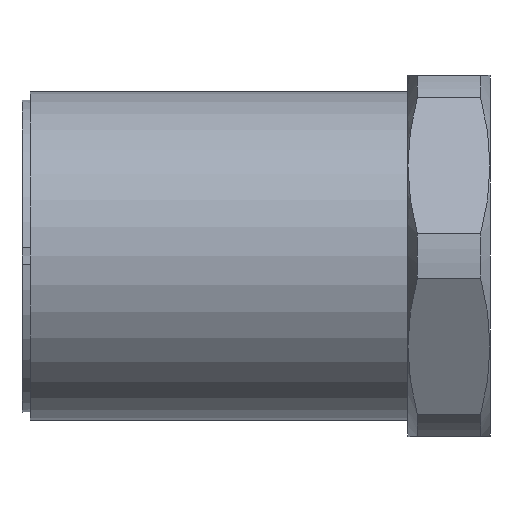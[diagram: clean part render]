
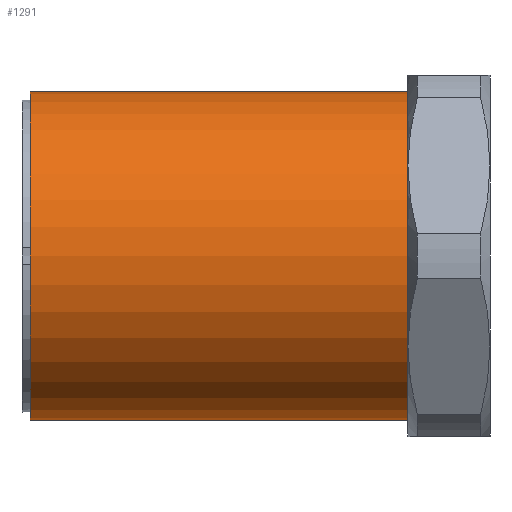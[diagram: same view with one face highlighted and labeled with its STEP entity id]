
A CAD part, front view. The second image highlights one B-rep face of the part: STEP entity #1291.
In plain terms, the highlighted cylindrical face has radius 10 mm (diameter 20 mm), a partial arc.
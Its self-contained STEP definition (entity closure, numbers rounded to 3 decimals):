
#3 = EDGE_CURVE ( 'NONE', #93, #639, #1360, .T. ) ;
#18 = AXIS2_PLACEMENT_3D ( 'NONE', #276, #166, #167 ) ;
#42 = CARTESIAN_POINT ( 'NONE',  ( 0., 0., 10. ) ) ;
#93 = VERTEX_POINT ( 'NONE', #109 ) ;
#109 = CARTESIAN_POINT ( 'NONE',  ( 23., 0., -10. ) ) ;
#166 = DIRECTION ( 'NONE',  ( -1., 0., 0. ) ) ;
#167 = DIRECTION ( 'NONE',  ( 0., 0., 1. ) ) ;
#236 = VERTEX_POINT ( 'NONE', #401 ) ;
#276 = CARTESIAN_POINT ( 'NONE',  ( 23., 0., 0. ) ) ;
#301 = CARTESIAN_POINT ( 'NONE',  ( 0., 0., 10. ) ) ;
#310 = DIRECTION ( 'NONE',  ( -1., 0., 0. ) ) ;
#401 = CARTESIAN_POINT ( 'NONE',  ( 0., 0., -10. ) ) ;
#462 = DIRECTION ( 'NONE',  ( -1., 0., 0. ) ) ;
#493 = CARTESIAN_POINT ( 'NONE',  ( 23., 0., 10. ) ) ;
#577 = CARTESIAN_POINT ( 'NONE',  ( 0., 0., -10. ) ) ;
#636 = VERTEX_POINT ( 'NONE', #42 ) ;
#639 = VERTEX_POINT ( 'NONE', #493 ) ;
#724 = CARTESIAN_POINT ( 'NONE',  ( 0., 0., 0. ) ) ;
#730 = DIRECTION ( 'NONE',  ( -1., 0., 0. ) ) ;
#733 = DIRECTION ( 'NONE',  ( -1., 0., 0. ) ) ;
#734 = CARTESIAN_POINT ( 'NONE',  ( 0., 0., 0. ) ) ;
#736 = DIRECTION ( 'NONE',  ( 0., 0., 1. ) ) ;
#747 = DIRECTION ( 'NONE',  ( 0., 0., 1. ) ) ;
#863 = EDGE_LOOP ( 'NONE', ( #878, #882, #870, #872 ) ) ;
#870 = ORIENTED_EDGE ( 'NONE', *, *, #1202, .T. ) ;
#872 = ORIENTED_EDGE ( 'NONE', *, *, #1255, .F. ) ;
#878 = ORIENTED_EDGE ( 'NONE', *, *, #1146, .F. ) ;
#882 = ORIENTED_EDGE ( 'NONE', *, *, #3, .T. ) ;
#1080 = AXIS2_PLACEMENT_3D ( 'NONE', #724, #730, #747 ) ;
#1083 = AXIS2_PLACEMENT_3D ( 'NONE', #734, #733, #736 ) ;
#1146 = EDGE_CURVE ( 'NONE', #93, #236, #1385, .T. ) ;
#1202 = EDGE_CURVE ( 'NONE', #639, #636, #1462, .T. ) ;
#1255 = EDGE_CURVE ( 'NONE', #236, #636, #1429, .T. ) ;
#1291 = ADVANCED_FACE ( 'NONE', ( #1509 ), #1432, .T. ) ;
#1360 = CIRCLE ( 'NONE', #18, 10. ) ;
#1383 = VECTOR ( 'NONE', #462, 1000. ) ;
#1385 = LINE ( 'NONE', #577, #1383 ) ;
#1429 = CIRCLE ( 'NONE', #1083, 10. ) ;
#1432 = CYLINDRICAL_SURFACE ( 'NONE', #1080, 10. ) ;
#1457 = VECTOR ( 'NONE', #310, 1000. ) ;
#1462 = LINE ( 'NONE', #301, #1457 ) ;
#1509 = FACE_OUTER_BOUND ( 'NONE', #863, .T. ) ;
